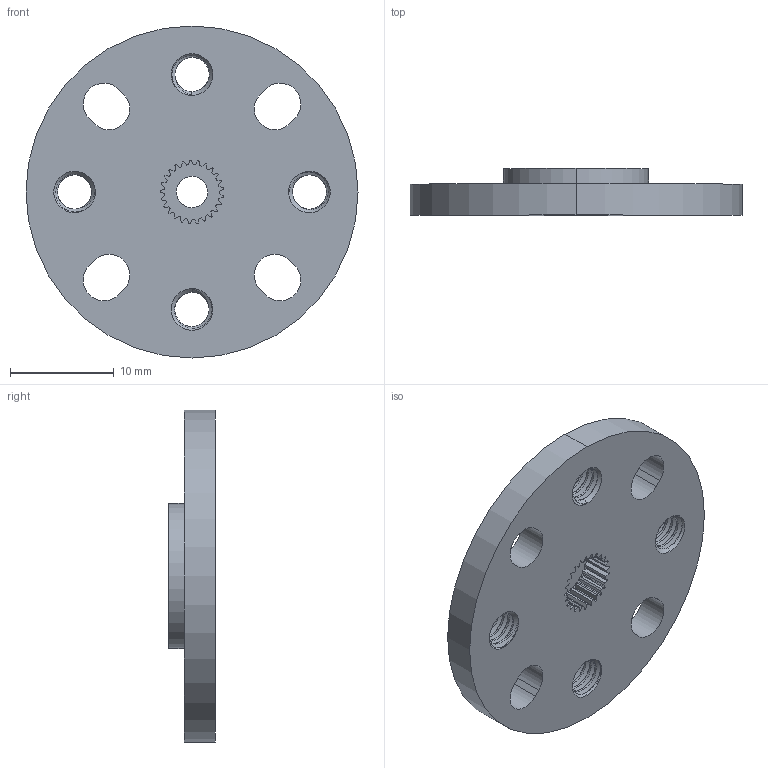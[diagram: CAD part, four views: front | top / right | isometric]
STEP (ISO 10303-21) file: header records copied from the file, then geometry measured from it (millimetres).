
FILE_DESCRIPTION (( 'STEP AP203' ), '1' );
FILE_NAME ('1906-0025-0032.STEP', '2018-08-07T13:19:36', ( '' ), ( '' ), 'SwSTEP 2.0', 'SolidWorks 2016', '' );
FILE_SCHEMA (( 'CONFIG_CONTROL_DESIGN' ));
Length unit declared in the file: millimetre
Products named in the file (1): 1906-0025-0032
Bounding box: 31.98 x 4.5 x 31.98 mm (x, y, z)
Volume: 2232.7 mm3; surface area: 2252.4 mm2
Topology: 1 solids, 1 shells, 239 faces, 682 edges, 448 vertices
Faces by surface type: cylinder 142, plane 63, cone 26, bspline 8
Entity records: 17441 total; most frequent: CARTESIAN_POINT 11424, ORIENTED_EDGE 1364, DIRECTION 1162, EDGE_CURVE 682, VERTEX_POINT 448, AXIS2_PLACEMENT_3D 418, LINE 326, VECTOR 326
